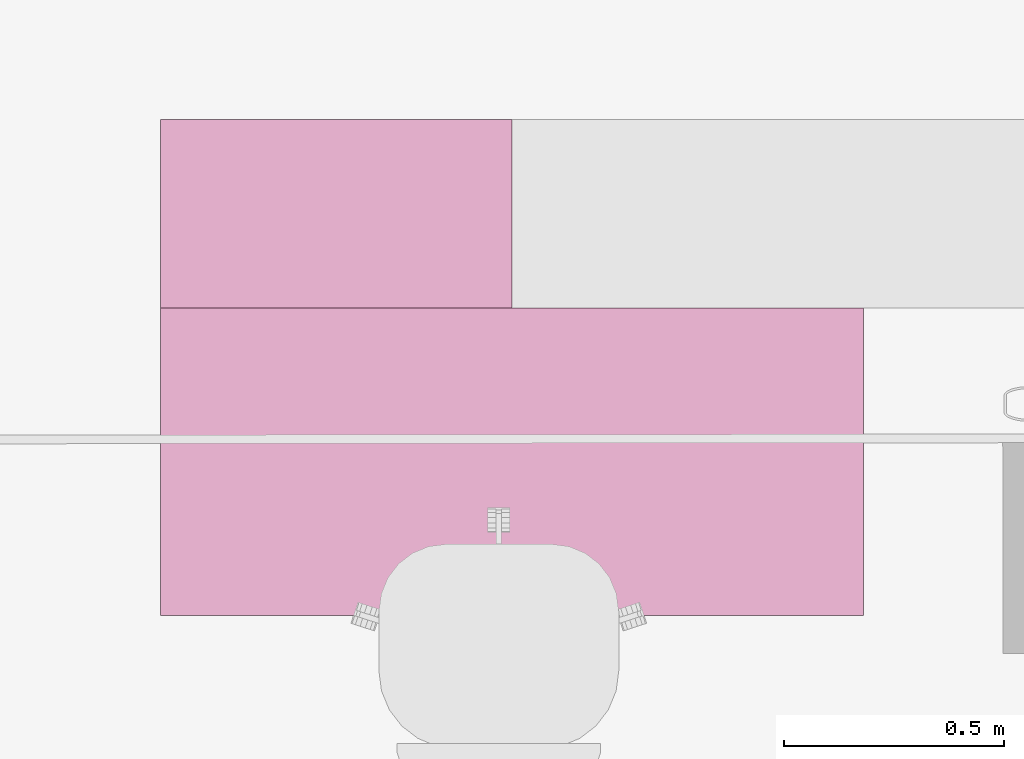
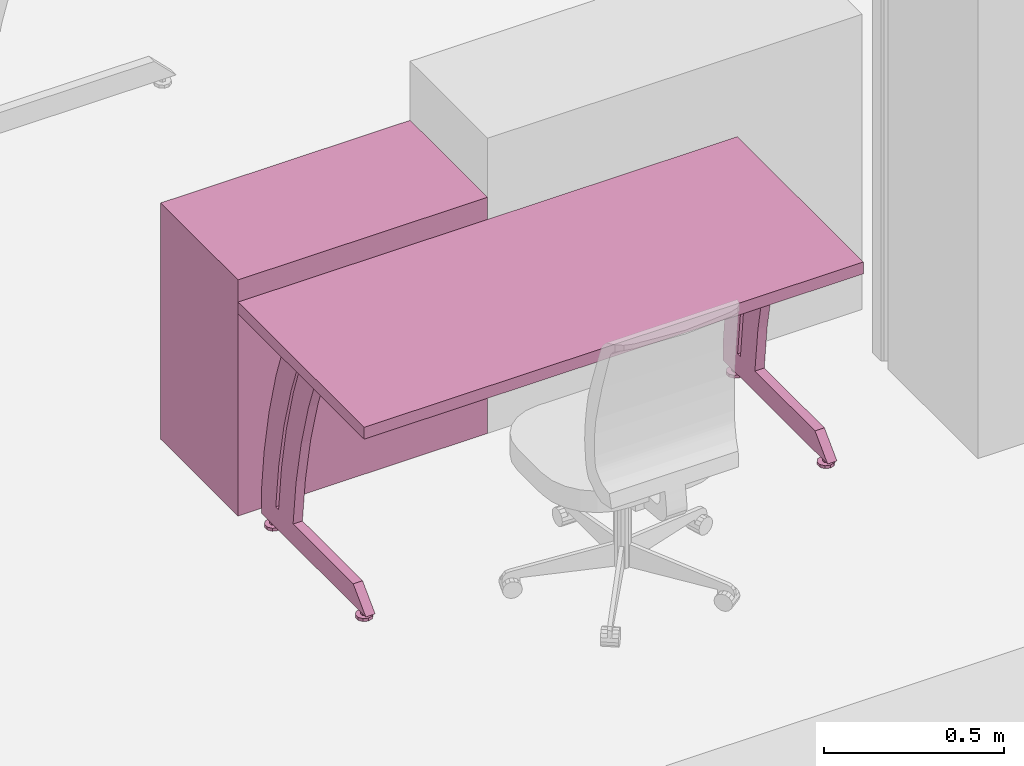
# One storey, part 109 of 128: 2 furnishings.
"""IFC2X3 building model written with IfcOpenShell, lengths in metres."""

from ifc_helpers import new_model, entity, si_unit, converted_unit, derived_unit, direction, frame, frame_2d, origin, place, context, subcontext, project, spatial, rectangle, extrude, faceted_brep, source, transform, mapped, material, type_object, type_shapes, element, save


model = new_model("IFC2X3")

# Units and contexts
model_context = context("Model", 3, precision=1e-05, world=origin(), true_north=direction((6.123031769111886e-17, 1.0)))
body_context = subcontext(model_context, "Body", "Model", "MODEL_VIEW")
ifc_project = project(units=[si_unit("LENGTHUNIT", "METRE"), si_unit("AREAUNIT", "SQUARE_METRE"), converted_unit("PLANEANGLEUNIT", "DEGREE", entity("IfcPlaneAngleMeasure", 0.017453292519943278), si_unit("PLANEANGLEUNIT", "RADIAN"), dimensions=[0, 0, 0, 0, 0, 0, 0]), derived_unit("THERMALTRANSMITTANCEUNIT", [(si_unit("MASSUNIT", "GRAM", prefix="KILO"), 1), (si_unit("THERMODYNAMICTEMPERATUREUNIT", "KELVIN"), -1), (si_unit("TIMEUNIT", "SECOND"), -3)])], contexts=[model_context])

# Site, building, storey
site_placement = place(None, origin())
site = spatial("IfcSite", under=ifc_project, at=site_placement, Name="Default", CompositionType="ELEMENT")
building_placement = place(site_placement, origin())
building = spatial("IfcBuilding", under=site, at=building_placement, CompositionType="ELEMENT")
storey_placement = place(building_placement, origin())
storey = spatial("IfcBuildingStorey", under=building, at=storey_placement, Name="00_RDC CAF", CompositionType="ELEMENT", Elevation=2.4982504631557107e-13)

# Furnishings
ifc_material = material(Name="ARC - Mo - Blanc")
furniture_type_1 = type_object("IfcFurnitureType", Name="Mo_Bureau:Mo_Bureau_1600x700mm", AssemblyPlace="NOTDEFINED", material=ifc_material)
shared_shape_1 = source(origin(), body_context, "Body", "Brep", [
    faceted_brep([(0.0599999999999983, -0.5962325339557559, 0.0), (0.03622358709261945, -0.5885071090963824, 0.0), (0.040764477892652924, -0.5822571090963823, 0.0), (0.04530536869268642, -0.5760071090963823, 0.0), (0.0526526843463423, -0.5736198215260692, 0.0), (0.059999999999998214, -0.571232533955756, 0.0), (0.06734731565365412, -0.573619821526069, 0.0), (0.036223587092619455, -0.596232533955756, 0.0), (0.03622358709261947, -0.6039579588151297, 0.0), (0.040764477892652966, -0.6102079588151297, 0.0), (0.045305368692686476, -0.6164579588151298, 0.0), (0.052652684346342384, -0.6188452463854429, 0.0), (0.0599999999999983, -0.621232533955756, 0.0), (0.07469463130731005, -0.5760071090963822, 0.0), (0.07923552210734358, -0.5822571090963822, 0.0), (0.0837764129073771, -0.5885071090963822, 0.0), (0.08377641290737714, -0.5962325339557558, 0.0), (0.06734731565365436, -0.6188452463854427, 0.0), (0.07469463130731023, -0.6164579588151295, 0.0), (0.07923552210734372, -0.6102079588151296, 0.0), (0.08377641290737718, -0.6039579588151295, 0.0), (0.0599999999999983, -0.5962325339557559, 0.024999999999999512), (0.05999999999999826, -0.5862325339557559, 0.024999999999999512), (0.05133974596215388, -0.5912325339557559, 0.024999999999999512), (0.05133974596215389, -0.6012325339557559, 0.024999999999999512), (0.0599999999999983, -0.606232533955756, 0.024999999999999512), (0.06866025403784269, -0.5912325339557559, 0.024999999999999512), (0.06866025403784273, -0.6012325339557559, 0.024999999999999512), (0.05133974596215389, -0.6012325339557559, 0.01000000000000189), (0.0599999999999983, -0.606232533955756, 0.01000000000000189), (0.05133974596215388, -0.5912325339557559, 0.01000000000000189), (0.05999999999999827, -0.5862325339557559, 0.01000000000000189), (0.06866025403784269, -0.5912325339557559, 0.01000000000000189), (0.06866025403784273, -0.6012325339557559, 0.01000000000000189), (0.05999999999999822, -0.571232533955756, 0.01000000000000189), (0.05554606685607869, -0.57267970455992, 0.01000000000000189), (0.05109213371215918, -0.574126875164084, 0.01000000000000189), (0.04530536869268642, -0.5760071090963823, 0.01000000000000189), (0.06734731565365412, -0.573619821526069, 0.01000000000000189), (0.07469463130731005, -0.5760071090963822, 0.01000000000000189), (0.07923552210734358, -0.5822571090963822, 0.01000000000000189), (0.0837764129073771, -0.5885071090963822, 0.01000000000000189), (0.08377641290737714, -0.5962325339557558, 0.01000000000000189), (0.08377641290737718, -0.6039579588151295, 0.01000000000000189), (0.07923552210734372, -0.6102079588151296, 0.01000000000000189), (0.07469463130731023, -0.6164579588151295, 0.01000000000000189), (0.06890786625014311, -0.6183381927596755, 0.01000000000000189), (0.06445393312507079, -0.6197853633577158, 0.01000000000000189), (0.0599999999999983, -0.621232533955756, 0.01000000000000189), (0.052652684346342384, -0.6188452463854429, 0.01000000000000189), (0.045305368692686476, -0.6164579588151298, 0.01000000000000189), (0.03622358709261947, -0.6039579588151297, 0.01000000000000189), (0.04076447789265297, -0.6102079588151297, 0.01000000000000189), (0.04076447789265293, -0.5822571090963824, 0.01000000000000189), (0.03622358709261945, -0.5885071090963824, 0.01000000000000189), (0.03622358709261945, -0.5962325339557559, 0.01000000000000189)], [[[0, 1, 2]], [[0, 2, 3]], [[0, 3, 4]], [[0, 4, 5]], [[0, 5, 6]], [[0, 7, 1]], [[0, 8, 7]], [[0, 9, 8]], [[0, 10, 9]], [[0, 11, 10]], [[0, 12, 11]], [[0, 6, 13]], [[0, 13, 14]], [[0, 14, 15]], [[0, 15, 16]], [[0, 17, 12]], [[0, 18, 17]], [[0, 19, 18]], [[0, 20, 19]], [[0, 16, 20]], [[21, 22, 23]], [[23, 24, 21]], [[24, 25, 21]], [[21, 26, 22]], [[25, 27, 21]], [[26, 21, 27]], [[25, 24, 28, 29]], [[24, 23, 30, 28]], [[23, 22, 31, 30]], [[22, 26, 32, 31]], [[26, 27, 33, 32]], [[27, 25, 29, 33]], [[31, 34, 35]], [[31, 35, 36]], [[31, 36, 37]], [[31, 37, 30]], [[31, 38, 34]], [[31, 39, 38]], [[32, 39, 31]], [[32, 40, 39]], [[32, 41, 40]], [[32, 42, 41]], [[32, 43, 42]], [[32, 33, 43]], [[33, 44, 43]], [[33, 45, 44]], [[33, 29, 45]], [[29, 46, 45]], [[29, 47, 46]], [[29, 48, 47]], [[29, 49, 48]], [[29, 50, 49]], [[29, 28, 50]], [[30, 51, 28]], [[28, 51, 52]], [[28, 52, 50]], [[30, 37, 53]], [[30, 53, 54]], [[30, 54, 55]], [[30, 55, 51]], [[11, 12, 48, 49, 50, 10]], [[8, 9, 10, 50, 52, 51]], [[7, 8, 51, 55, 54, 1]], [[3, 37, 36, 35, 34, 5, 4]], [[54, 53, 37, 3, 2, 1]], [[6, 5, 34, 38, 39, 13]], [[15, 14, 13, 39, 40, 41]], [[16, 15, 41, 42, 43, 20]], [[18, 45, 46, 47, 48, 12, 17]], [[43, 44, 45, 18, 19, 20]]]),
    faceted_brep([(0.0599999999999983, -0.09132706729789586, 0.0), (0.03622358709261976, -0.08360164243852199, 0.0), (0.04076447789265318, -0.07735164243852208, 0.0), (0.045305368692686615, -0.07110164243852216, 0.0), (0.05265268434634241, -0.06871435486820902, 0.0), (0.059999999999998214, -0.06632706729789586, 0.0), (0.06734731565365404, -0.06871435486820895, 0.0), (0.03622358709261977, -0.09132706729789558, 0.0), (0.03622358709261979, -0.09905249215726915, 0.0), (0.040764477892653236, -0.10530249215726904, 0.0), (0.045305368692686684, -0.11155249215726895, 0.0), (0.05265268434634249, -0.11393977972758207, 0.0), (0.0599999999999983, -0.11632706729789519, 0.0), (0.07469463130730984, -0.07110164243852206, 0.0), (0.0792355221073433, -0.07735164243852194, 0.0), (0.08377641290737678, -0.08360164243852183, 0.0), (0.08377641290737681, -0.09132706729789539, 0.0), (0.06734731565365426, -0.11393977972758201, 0.0), (0.07469463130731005, -0.11155249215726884, 0.0), (0.07923552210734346, -0.1053024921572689, 0.0), (0.08377641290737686, -0.09905249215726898, 0.0), (0.0599999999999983, -0.09132706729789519, 0.024999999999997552), (0.05999999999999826, -0.08132706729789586, 0.024999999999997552), (0.051339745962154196, -0.08632706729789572, 0.024999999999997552), (0.05133974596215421, -0.09632706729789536, 0.024999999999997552), (0.0599999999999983, -0.10132706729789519, 0.024999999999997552), (0.06866025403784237, -0.08632706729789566, 0.024999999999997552), (0.06866025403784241, -0.09632706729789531, 0.024999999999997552), (0.05133974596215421, -0.09632706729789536, 0.009999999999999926), (0.0599999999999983, -0.10132706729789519, 0.009999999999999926), (0.051339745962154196, -0.08632706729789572, 0.009999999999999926), (0.05999999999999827, -0.08132706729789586, 0.009999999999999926), (0.06866025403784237, -0.08632706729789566, 0.009999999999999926), (0.06866025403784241, -0.09632706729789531, 0.009999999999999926), (0.059999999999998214, -0.06632706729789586, 0.009999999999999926), (0.05554606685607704, -0.06777423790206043, 0.009999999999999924), (0.05109213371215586, -0.06922140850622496, 0.009999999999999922), (0.045305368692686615, -0.07110164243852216, 0.009999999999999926), (0.06734731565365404, -0.06871435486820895, 0.009999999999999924), (0.07469463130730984, -0.07110164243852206, 0.009999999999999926), (0.0792355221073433, -0.07735164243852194, 0.009999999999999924), (0.08377641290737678, -0.08360164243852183, 0.009999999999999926), (0.08377641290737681, -0.0913270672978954, 0.009999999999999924), (0.08377641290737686, -0.09905249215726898, 0.009999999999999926), (0.07923552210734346, -0.1053024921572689, 0.009999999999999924), (0.07469463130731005, -0.11155249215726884, 0.009999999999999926), (0.06890786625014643, -0.11343272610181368, 0.009999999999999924), (0.06445393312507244, -0.11487989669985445, 0.009999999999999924), (0.0599999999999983, -0.11632706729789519, 0.009999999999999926), (0.05265268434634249, -0.11393977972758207, 0.009999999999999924), (0.045305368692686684, -0.11155249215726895, 0.009999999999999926), (0.03622358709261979, -0.09905249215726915, 0.009999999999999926), (0.040764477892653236, -0.10530249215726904, 0.009999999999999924), (0.04076447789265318, -0.07735164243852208, 0.009999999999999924), (0.03622358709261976, -0.08360164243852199, 0.009999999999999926), (0.03622358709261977, -0.09132706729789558, 0.009999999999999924)], [[[0, 1, 2]], [[0, 2, 3]], [[0, 3, 4]], [[0, 4, 5]], [[0, 5, 6]], [[0, 7, 1]], [[0, 8, 7]], [[0, 9, 8]], [[0, 10, 9]], [[0, 11, 10]], [[0, 12, 11]], [[0, 6, 13]], [[0, 13, 14]], [[0, 14, 15]], [[0, 15, 16]], [[0, 17, 12]], [[0, 18, 17]], [[0, 19, 18]], [[0, 20, 19]], [[0, 16, 20]], [[21, 22, 23]], [[23, 24, 21]], [[24, 25, 21]], [[21, 26, 22]], [[25, 27, 21]], [[26, 21, 27]], [[25, 24, 28, 29]], [[24, 23, 30, 28]], [[23, 22, 31, 30]], [[22, 26, 32, 31]], [[26, 27, 33, 32]], [[27, 25, 29, 33]], [[31, 34, 35]], [[31, 35, 36]], [[31, 36, 37]], [[31, 37, 30]], [[31, 38, 34]], [[31, 39, 38]], [[32, 39, 31]], [[32, 40, 39]], [[32, 41, 40]], [[32, 42, 41]], [[32, 43, 42]], [[32, 33, 43]], [[33, 44, 43]], [[33, 45, 44]], [[33, 29, 45]], [[29, 46, 45]], [[29, 47, 46]], [[29, 48, 47]], [[29, 49, 48]], [[29, 50, 49]], [[29, 28, 50]], [[30, 51, 28]], [[28, 51, 52]], [[28, 52, 50]], [[30, 37, 53]], [[30, 53, 54]], [[30, 54, 55]], [[30, 55, 51]], [[11, 12, 48, 49, 50, 10]], [[8, 9, 10, 50, 52, 51]], [[7, 8, 51, 55, 54, 1]], [[3, 37, 36, 35, 34, 5, 4]], [[54, 53, 37, 3, 2, 1]], [[6, 5, 34, 38, 39, 13]], [[15, 14, 13, 39, 40, 41]], [[16, 15, 41, 42, 43, 20]], [[18, 45, 46, 47, 48, 12, 17]], [[43, 44, 45, 18, 19, 20]]]),
    faceted_brep([(0.0449999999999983, -0.22742160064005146, 0.09499999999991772), (0.0449999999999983, -0.24409269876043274, 0.24614112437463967), (0.0449999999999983, -0.2727144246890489, 0.395480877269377), (0.0449999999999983, -0.3131059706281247, 0.5420758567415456), (0.0449999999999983, -0.36501217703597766, 0.6849999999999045), (0.0449999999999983, -0.27887211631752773, 0.684999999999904), (0.0449999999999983, -0.22919246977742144, 0.5416912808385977), (0.0449999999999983, -0.19055436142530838, 0.39501969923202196), (0.0449999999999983, -0.1631815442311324, 0.24583462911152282), (0.0449999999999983, -0.14723253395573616, 0.09499999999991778), (0.07499999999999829, -0.3650121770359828, 0.6849999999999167), (0.07499999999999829, -0.3131059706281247, 0.5420758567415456), (0.07499999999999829, -0.2727144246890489, 0.395480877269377), (0.07499999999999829, -0.24409269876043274, 0.24614112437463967), (0.07499999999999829, -0.22742160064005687, 0.09499999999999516), (0.07499999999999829, -0.14723253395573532, 0.09499999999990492), (0.07499999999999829, -0.1631815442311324, 0.24583462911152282), (0.07499999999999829, -0.19055436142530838, 0.39501969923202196), (0.07499999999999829, -0.22919246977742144, 0.5416912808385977), (0.07499999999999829, -0.278872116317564, 0.6849999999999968)], [[[0, 1, 2, 3, 4, 5, 6, 7, 8, 9]], [[10, 11, 12, 13, 14, 15, 16, 17, 18, 19]], [[10, 19, 5, 4]], [[3, 11, 10, 4]], [[2, 12, 11, 3]], [[0, 14, 13, 1]], [[12, 2, 1, 13]], [[15, 14, 0, 9]], [[8, 7, 17, 16]], [[15, 9, 8, 16]], [[6, 5, 19, 18]], [[6, 18, 17, 7]]]),
    faceted_brep([(0.0449999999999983, -0.13142160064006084, 0.09500000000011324), (0.0449999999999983, -0.14809269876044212, 0.24614112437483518), (0.0449999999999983, -0.1767144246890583, 0.3954808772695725), (0.0449999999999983, -0.21710597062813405, 0.5420758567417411), (0.0449999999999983, -0.269012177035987, 0.6850000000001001), (0.0449999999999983, -0.18287211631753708, 0.6850000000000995), (0.0449999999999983, -0.13319246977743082, 0.5416912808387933), (0.0449999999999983, -0.09455436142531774, 0.39501969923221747), (0.0449999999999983, -0.06718154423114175, 0.24583462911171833), (0.0449999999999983, -0.05123253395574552, 0.0950000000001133), (0.07499999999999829, -0.2690121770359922, 0.6850000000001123), (0.07499999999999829, -0.21710597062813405, 0.5420758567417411), (0.07499999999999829, -0.1767144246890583, 0.3954808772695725), (0.07499999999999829, -0.14809269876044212, 0.24614112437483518), (0.07499999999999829, -0.13142160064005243, 0.09499999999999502), (0.07499999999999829, -0.0512325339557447, 0.09500000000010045), (0.07499999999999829, -0.06718154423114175, 0.24583462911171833), (0.07499999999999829, -0.09455436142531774, 0.39501969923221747), (0.07499999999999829, -0.13319246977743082, 0.5416912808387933), (0.07499999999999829, -0.1828721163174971, 0.684999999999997)], [[[0, 1, 2, 3, 4, 5, 6, 7, 8, 9]], [[10, 11, 12, 13, 14, 15, 16, 17, 18, 19]], [[10, 19, 5, 4]], [[3, 11, 10, 4]], [[2, 12, 11, 3]], [[0, 14, 13, 1]], [[12, 2, 1, 13]], [[15, 14, 0, 9]], [[8, 7, 17, 16]], [[15, 9, 8, 16]], [[6, 5, 19, 18]], [[6, 18, 17, 7]]]),
    faceted_brep([(0.0449999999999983, -0.05123253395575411, 0.024999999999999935), (0.0449999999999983, -0.6312325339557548, 0.024999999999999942), (0.0449999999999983, -0.5612325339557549, 0.09499999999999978), (0.0449999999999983, -0.05123253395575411, 0.09499999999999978), (0.07499999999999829, -0.05123253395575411, 0.024999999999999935), (0.07499999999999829, -0.05123253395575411, 0.09499999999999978), (0.07499999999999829, -0.5612325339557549, 0.09499999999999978), (0.07499999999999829, -0.6312325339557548, 0.024999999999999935)], [[[0, 1, 2, 3]], [[4, 5, 6, 7]], [[5, 4, 0, 3]], [[6, 5, 3, 2]], [[4, 7, 1, 0]], [[7, 6, 2, 1]]]),
    faceted_brep([(1.5399999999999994, -0.5962325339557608, 0.0), (1.5162235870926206, -0.5885071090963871, 0.0), (1.5207644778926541, -0.5822571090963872, 0.0), (1.5253053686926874, -0.5760071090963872, 0.0), (1.5326526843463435, -0.5736198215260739, 0.0), (1.5399999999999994, -0.5712325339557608, 0.0), (1.5473473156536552, -0.5736198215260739, 0.0), (1.5162235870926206, -0.5962325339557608, 0.0), (1.5162235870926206, -0.6039579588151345, 0.0), (1.5207644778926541, -0.6102079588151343, 0.0), (1.5253053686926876, -0.6164579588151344, 0.0), (1.5326526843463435, -0.6188452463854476, 0.0), (1.5399999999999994, -0.6212325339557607, 0.0), (1.5546946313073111, -0.576007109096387, 0.0), (1.5592355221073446, -0.5822571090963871, 0.0), (1.5637764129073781, -0.5885071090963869, 0.0), (1.5637764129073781, -0.5962325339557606, 0.0), (1.5473473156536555, -0.6188452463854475, 0.0), (1.5546946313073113, -0.6164579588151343, 0.0), (1.5592355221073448, -0.6102079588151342, 0.0), (1.5637764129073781, -0.6039579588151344, 0.0), (1.5399999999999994, -0.5962325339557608, 0.024999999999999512), (1.5399999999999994, -0.5862325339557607, 0.024999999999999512), (1.531339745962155, -0.5912325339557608, 0.024999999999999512), (1.531339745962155, -0.6012325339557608, 0.024999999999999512), (1.5399999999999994, -0.6062325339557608, 0.024999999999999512), (1.548660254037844, -0.5912325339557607, 0.024999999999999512), (1.548660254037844, -0.6012325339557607, 0.024999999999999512), (1.531339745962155, -0.6012325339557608, 0.01000000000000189), (1.5399999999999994, -0.6062325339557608, 0.01000000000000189), (1.531339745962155, -0.5912325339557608, 0.01000000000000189), (1.5399999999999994, -0.5862325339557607, 0.01000000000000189), (1.548660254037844, -0.5912325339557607, 0.01000000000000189), (1.548660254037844, -0.6012325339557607, 0.01000000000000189), (1.5399999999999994, -0.5712325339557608, 0.01000000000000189), (1.5355460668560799, -0.5726797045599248, 0.01000000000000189), (1.5310921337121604, -0.5741268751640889, 0.01000000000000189), (1.5253053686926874, -0.5760071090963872, 0.01000000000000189), (1.5473473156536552, -0.5736198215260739, 0.01000000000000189), (1.5546946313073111, -0.576007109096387, 0.01000000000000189), (1.5592355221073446, -0.5822571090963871, 0.01000000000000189), (1.5637764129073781, -0.5885071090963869, 0.01000000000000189), (1.5637764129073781, -0.5962325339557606, 0.01000000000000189), (1.5637764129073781, -0.6039579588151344, 0.01000000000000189), (1.5592355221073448, -0.6102079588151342, 0.01000000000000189), (1.5546946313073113, -0.6164579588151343, 0.01000000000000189), (1.5489078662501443, -0.6183381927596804, 0.01000000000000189), (1.544453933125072, -0.6197853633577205, 0.01000000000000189), (1.5399999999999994, -0.6212325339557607, 0.01000000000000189), (1.5326526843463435, -0.6188452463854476, 0.01000000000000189), (1.5253053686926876, -0.6164579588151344, 0.01000000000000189), (1.5162235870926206, -0.6039579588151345, 0.01000000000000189), (1.5207644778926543, -0.6102079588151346, 0.01000000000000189), (1.5207644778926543, -0.5822571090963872, 0.01000000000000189), (1.5162235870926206, -0.5885071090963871, 0.01000000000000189), (1.5162235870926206, -0.5962325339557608, 0.01000000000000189)], [[[0, 1, 2]], [[0, 2, 3]], [[0, 3, 4]], [[0, 4, 5]], [[0, 5, 6]], [[0, 7, 1]], [[0, 8, 7]], [[0, 9, 8]], [[0, 10, 9]], [[0, 11, 10]], [[0, 12, 11]], [[0, 6, 13]], [[0, 13, 14]], [[0, 14, 15]], [[0, 15, 16]], [[0, 17, 12]], [[0, 18, 17]], [[0, 19, 18]], [[0, 20, 19]], [[0, 16, 20]], [[21, 22, 23]], [[23, 24, 21]], [[24, 25, 21]], [[21, 26, 22]], [[25, 27, 21]], [[26, 21, 27]], [[25, 24, 28, 29]], [[24, 23, 30, 28]], [[23, 22, 31, 30]], [[22, 26, 32, 31]], [[26, 27, 33, 32]], [[27, 25, 29, 33]], [[31, 34, 35]], [[31, 35, 36]], [[31, 36, 37]], [[31, 37, 30]], [[31, 38, 34]], [[31, 39, 38]], [[32, 39, 31]], [[32, 40, 39]], [[32, 41, 40]], [[32, 42, 41]], [[32, 43, 42]], [[32, 33, 43]], [[33, 44, 43]], [[33, 45, 44]], [[33, 29, 45]], [[29, 46, 45]], [[29, 47, 46]], [[29, 48, 47]], [[29, 49, 48]], [[29, 50, 49]], [[29, 28, 50]], [[30, 51, 28]], [[28, 51, 52]], [[28, 52, 50]], [[30, 37, 53]], [[30, 53, 54]], [[30, 54, 55]], [[30, 55, 51]], [[11, 12, 48, 49, 50, 10]], [[8, 9, 10, 50, 52, 51]], [[7, 8, 51, 55, 54, 1]], [[3, 37, 36, 35, 34, 5, 4]], [[54, 53, 37, 3, 2, 1]], [[6, 5, 34, 38, 39, 13]], [[15, 14, 13, 39, 40, 41]], [[16, 15, 41, 42, 43, 20]], [[18, 45, 46, 47, 48, 12, 17]], [[43, 44, 45, 18, 19, 20]]]),
    faceted_brep([(1.5399999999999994, -0.09132706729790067, 0.0), (1.5162235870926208, -0.08360164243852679, 0.0), (1.5207644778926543, -0.07735164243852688, 0.0), (1.5253053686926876, -0.07110164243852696, 0.0), (1.5326526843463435, -0.06871435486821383, 0.0), (1.5399999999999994, -0.06632706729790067, 0.0), (1.5473473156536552, -0.06871435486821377, 0.0), (1.5162235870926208, -0.09132706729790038, 0.0), (1.5162235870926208, -0.09905249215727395, 0.0), (1.5207644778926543, -0.10530249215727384, 0.0), (1.5253053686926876, -0.11155249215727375, 0.0), (1.5326526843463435, -0.11393977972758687, 0.0), (1.5399999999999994, -0.11632706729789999, 0.0), (1.554694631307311, -0.07110164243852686, 0.0), (1.5592355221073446, -0.07735164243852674, 0.0), (1.563776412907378, -0.08360164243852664, 0.0), (1.563776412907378, -0.09132706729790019, 0.0), (1.5473473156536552, -0.11393977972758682, 0.0), (1.5546946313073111, -0.11155249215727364, 0.0), (1.5592355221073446, -0.10530249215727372, 0.0), (1.563776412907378, -0.09905249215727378, 0.0), (1.5399999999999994, -0.0913270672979, 0.024999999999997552), (1.5399999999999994, -0.08132706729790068, 0.024999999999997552), (1.5313397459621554, -0.08632706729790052, 0.024999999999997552), (1.5313397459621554, -0.09632706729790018, 0.024999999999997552), (1.5399999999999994, -0.10132706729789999, 0.024999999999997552), (1.5486602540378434, -0.08632706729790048, 0.024999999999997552), (1.5486602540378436, -0.09632706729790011, 0.024999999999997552), (1.5313397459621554, -0.09632706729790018, 0.009999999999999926), (1.5399999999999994, -0.10132706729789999, 0.009999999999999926), (1.5313397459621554, -0.08632706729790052, 0.009999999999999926), (1.5399999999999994, -0.08132706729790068, 0.009999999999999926), (1.5486602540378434, -0.08632706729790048, 0.009999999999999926), (1.5486602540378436, -0.09632706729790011, 0.009999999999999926), (1.5399999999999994, -0.06632706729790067, 0.009999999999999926), (1.5355460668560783, -0.06777423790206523, 0.009999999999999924), (1.5310921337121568, -0.06922140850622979, 0.009999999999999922), (1.5253053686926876, -0.07110164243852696, 0.009999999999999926), (1.5473473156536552, -0.06871435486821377, 0.009999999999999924), (1.554694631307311, -0.07110164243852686, 0.009999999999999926), (1.5592355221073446, -0.07735164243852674, 0.009999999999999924), (1.563776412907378, -0.08360164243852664, 0.009999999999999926), (1.563776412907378, -0.09132706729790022, 0.009999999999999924), (1.563776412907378, -0.09905249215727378, 0.009999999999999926), (1.5592355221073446, -0.10530249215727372, 0.009999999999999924), (1.5546946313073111, -0.11155249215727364, 0.009999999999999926), (1.5489078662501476, -0.11343272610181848, 0.009999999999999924), (1.5444539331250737, -0.11487989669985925, 0.009999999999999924), (1.5399999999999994, -0.11632706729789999, 0.009999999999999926), (1.5326526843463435, -0.11393977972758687, 0.009999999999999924), (1.5253053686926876, -0.11155249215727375, 0.009999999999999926), (1.5162235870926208, -0.09905249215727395, 0.009999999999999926), (1.5207644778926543, -0.10530249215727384, 0.009999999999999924), (1.5207644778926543, -0.07735164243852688, 0.009999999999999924), (1.5162235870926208, -0.08360164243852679, 0.009999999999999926), (1.5162235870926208, -0.09132706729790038, 0.009999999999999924)], [[[0, 1, 2]], [[0, 2, 3]], [[0, 3, 4]], [[0, 4, 5]], [[0, 5, 6]], [[0, 7, 1]], [[0, 8, 7]], [[0, 9, 8]], [[0, 10, 9]], [[0, 11, 10]], [[0, 12, 11]], [[0, 6, 13]], [[0, 13, 14]], [[0, 14, 15]], [[0, 15, 16]], [[0, 17, 12]], [[0, 18, 17]], [[0, 19, 18]], [[0, 20, 19]], [[0, 16, 20]], [[21, 22, 23]], [[23, 24, 21]], [[24, 25, 21]], [[21, 26, 22]], [[25, 27, 21]], [[26, 21, 27]], [[25, 24, 28, 29]], [[24, 23, 30, 28]], [[23, 22, 31, 30]], [[22, 26, 32, 31]], [[26, 27, 33, 32]], [[27, 25, 29, 33]], [[31, 34, 35]], [[31, 35, 36]], [[31, 36, 37]], [[31, 37, 30]], [[31, 38, 34]], [[31, 39, 38]], [[32, 39, 31]], [[32, 40, 39]], [[32, 41, 40]], [[32, 42, 41]], [[32, 43, 42]], [[32, 33, 43]], [[33, 44, 43]], [[33, 45, 44]], [[33, 29, 45]], [[29, 46, 45]], [[29, 47, 46]], [[29, 48, 47]], [[29, 49, 48]], [[29, 50, 49]], [[29, 28, 50]], [[30, 51, 28]], [[28, 51, 52]], [[28, 52, 50]], [[30, 37, 53]], [[30, 53, 54]], [[30, 54, 55]], [[30, 55, 51]], [[11, 12, 48, 49, 50, 10]], [[8, 9, 10, 50, 52, 51]], [[7, 8, 51, 55, 54, 1]], [[3, 37, 36, 35, 34, 5, 4]], [[54, 53, 37, 3, 2, 1]], [[6, 5, 34, 38, 39, 13]], [[15, 14, 13, 39, 40, 41]], [[16, 15, 41, 42, 43, 20]], [[18, 45, 46, 47, 48, 12, 17]], [[43, 44, 45, 18, 19, 20]]]),
    faceted_brep([(1.5249999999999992, -0.22742160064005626, 0.09499999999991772), (1.5249999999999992, -0.24409269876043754, 0.24614112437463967), (1.5249999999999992, -0.2727144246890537, 0.395480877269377), (1.5249999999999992, -0.3131059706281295, 0.5420758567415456), (1.5249999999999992, -0.3650121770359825, 0.6849999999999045), (1.5249999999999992, -0.2788721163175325, 0.684999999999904), (1.5249999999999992, -0.22919246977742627, 0.5416912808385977), (1.5249999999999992, -0.19055436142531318, 0.39501969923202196), (1.5249999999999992, -0.1631815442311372, 0.24583462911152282), (1.5249999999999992, -0.14723253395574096, 0.09499999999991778), (1.5549999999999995, -0.3650121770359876, 0.6849999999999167), (1.5549999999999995, -0.3131059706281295, 0.5420758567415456), (1.5549999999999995, -0.2727144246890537, 0.395480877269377), (1.5549999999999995, -0.24409269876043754, 0.24614112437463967), (1.5549999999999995, -0.22742160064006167, 0.09499999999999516), (1.5549999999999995, -0.14723253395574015, 0.09499999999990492), (1.5549999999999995, -0.1631815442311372, 0.24583462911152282), (1.5549999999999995, -0.19055436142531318, 0.39501969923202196), (1.5549999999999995, -0.22919246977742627, 0.5416912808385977), (1.5549999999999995, -0.27887211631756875, 0.6849999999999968)], [[[0, 1, 2, 3, 4, 5, 6, 7, 8, 9]], [[10, 11, 12, 13, 14, 15, 16, 17, 18, 19]], [[10, 19, 5, 4]], [[3, 11, 10, 4]], [[2, 12, 11, 3]], [[0, 14, 13, 1]], [[12, 2, 1, 13]], [[15, 14, 0, 9]], [[8, 7, 17, 16]], [[15, 9, 8, 16]], [[6, 5, 19, 18]], [[6, 18, 17, 7]]]),
    faceted_brep([(1.5249999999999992, -0.13142160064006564, 0.09500000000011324), (1.5249999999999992, -0.14809269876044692, 0.24614112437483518), (1.5249999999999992, -0.1767144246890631, 0.3954808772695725), (1.5249999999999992, -0.21710597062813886, 0.5420758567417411), (1.5249999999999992, -0.26901217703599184, 0.6850000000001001), (1.5249999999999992, -0.18287211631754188, 0.6850000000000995), (1.5249999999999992, -0.13319246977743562, 0.5416912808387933), (1.5249999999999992, -0.09455436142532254, 0.39501969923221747), (1.5249999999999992, -0.06718154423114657, 0.24583462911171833), (1.5249999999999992, -0.05123253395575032, 0.0950000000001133), (1.5549999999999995, -0.269012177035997, 0.6850000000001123), (1.5549999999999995, -0.21710597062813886, 0.5420758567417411), (1.5549999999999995, -0.1767144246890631, 0.3954808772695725), (1.5549999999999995, -0.14809269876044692, 0.24614112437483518), (1.5549999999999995, -0.13142160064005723, 0.09499999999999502), (1.5549999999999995, -0.05123253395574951, 0.09500000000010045), (1.5549999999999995, -0.06718154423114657, 0.24583462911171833), (1.5549999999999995, -0.09455436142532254, 0.39501969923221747), (1.5549999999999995, -0.13319246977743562, 0.5416912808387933), (1.5549999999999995, -0.18287211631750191, 0.684999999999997)], [[[0, 1, 2, 3, 4, 5, 6, 7, 8, 9]], [[10, 11, 12, 13, 14, 15, 16, 17, 18, 19]], [[10, 19, 5, 4]], [[3, 11, 10, 4]], [[2, 12, 11, 3]], [[0, 14, 13, 1]], [[12, 2, 1, 13]], [[15, 14, 0, 9]], [[8, 7, 17, 16]], [[15, 9, 8, 16]], [[6, 5, 19, 18]], [[6, 18, 17, 7]]]),
    faceted_brep([(1.5249999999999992, -0.05123253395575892, 0.024999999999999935), (1.5249999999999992, -0.6312325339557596, 0.024999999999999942), (1.5249999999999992, -0.5612325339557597, 0.09499999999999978), (1.5249999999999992, -0.05123253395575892, 0.09499999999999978), (1.5549999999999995, -0.05123253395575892, 0.024999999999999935), (1.5549999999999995, -0.05123253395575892, 0.09499999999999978), (1.5549999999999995, -0.5612325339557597, 0.09499999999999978), (1.5549999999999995, -0.6312325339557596, 0.024999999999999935)], [[[0, 1, 2, 3]], [[4, 5, 6, 7]], [[5, 4, 0, 3]], [[6, 5, 3, 2]], [[4, 7, 1, 0]], [[7, 6, 2, 1]]]),
    faceted_brep([(0.0, -0.6999999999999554, 0.685), (0.0, 0.0, 0.685), (1.599999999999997, 0.0, 0.684999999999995), (1.599999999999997, -0.6999999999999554, 0.684999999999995), (0.0, -0.6999999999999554, 0.7250000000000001), (1.599999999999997, -0.6999999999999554, 0.7249999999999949), (1.599999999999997, 0.0, 0.7249999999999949), (0.0, 0.0, 0.7250000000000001)], [[[0, 1, 2, 3]], [[4, 5, 6, 7]], [[5, 4, 0, 3]], [[6, 5, 3, 2]], [[7, 6, 2, 1]], [[4, 7, 1, 0]]]),
])
type_shapes(furniture_type_1, [shared_shape_1])
furnishing_1_placement = place(storey_placement, frame((40.698592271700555, 130.51423153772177, 0.0)))
element("IfcFurnishingElement", 1, at=furnishing_1_placement, inside=storey, type_object=furniture_type_1, material=ifc_material, Name="Mo_Bureau:Mo_Bureau_1600x700mm", ObjectType="Mo_Bureau:Mo_Bureau_1600x700mm", context=body_context, shape_type="MappedRepresentation", body=[
    mapped(shared_shape_1, transform((0.0, 0.0, 0.0), scale=1.0)),
])
furniture_type_2 = type_object("IfcFurnitureType", Name="Mo_Armoire_Porte_Coulissante:Mo_Armoire_basse_800x430x800mm", AssemblyPlace="NOTDEFINED", material=ifc_material)
shared_shape_2 = source(origin(), body_context, "Body", "SweptSolid", [
    extrude(rectangle(XDim=0.7999999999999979, YDim=0.43000000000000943, at=frame_2d((-5.551115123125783e-17, 0.0), x_axis=(1.0, 0.0))), frame((0.04470032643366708, -0.21500000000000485, 0.0), z_axis=(0.0, 0.0, 1.0), x_axis=(-1.0, 0.0, 0.0)), (0.0, 0.0, 1.0), 0.8),
])
type_shapes(furniture_type_2, [shared_shape_2])
furnishing_2_placement = place(storey_placement, frame((41.143292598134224, 130.51423153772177, 0.0), z_axis=(0.0, 0.0, 1.0), x_axis=(-1.0, 0.0, 0.0)))
element("IfcFurnishingElement", 2, at=furnishing_2_placement, inside=storey, type_object=furniture_type_2, material=ifc_material, Name="Mo_Armoire_Porte_Coulissante:Mo_Armoire_basse_800x430x800mm", ObjectType="Mo_Armoire_Porte_Coulissante:Mo_Armoire_basse_800x430x800mm", context=body_context, shape_type="MappedRepresentation", body=[
    mapped(shared_shape_2, transform((0.0, 0.0, 0.0), scale=1.0)),
])

save(model, "model.ifc")
